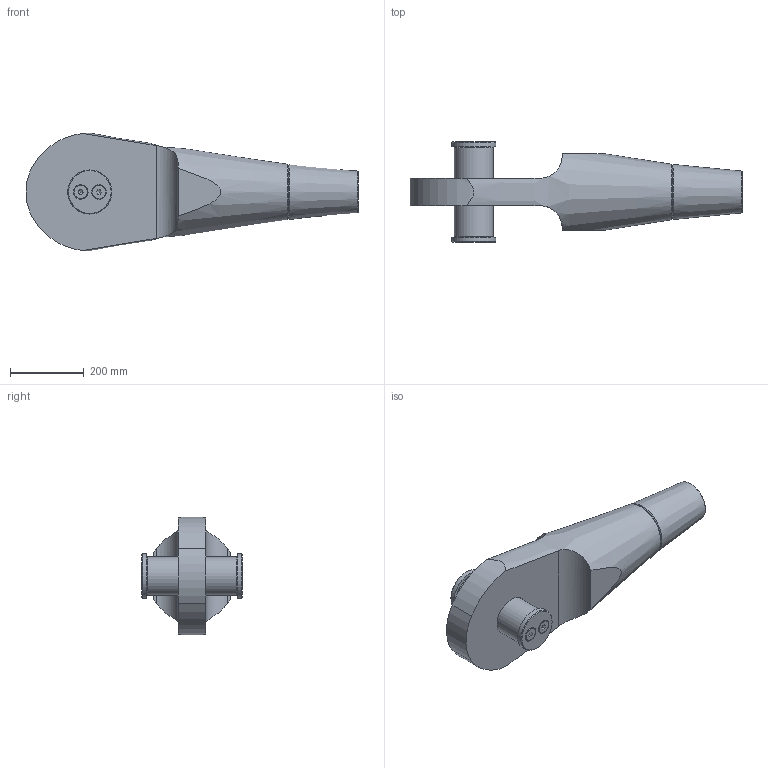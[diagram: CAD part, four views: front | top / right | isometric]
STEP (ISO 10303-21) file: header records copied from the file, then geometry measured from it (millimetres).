
FILE_DESCRIPTION(/* description */ (''),/* implementation_level */ '2;1');
FILE_NAME(/* name */ 'G:\Engineering\700 CAD\Internet-PX-1-step-igs-dxf\520-OES-Arbeitsdateien\520-100-OES.stp',/* time_stamp */ '2020-06-26T10:41:03+02:00',/* author */ ('schwarz'),/* organization */ (''),/* preprocessor_version */ 'ST-DEVELOPER v16.1',/* originating_system */ 'Autodesk Inventor 2016',/* authorisation */ '');
FILE_SCHEMA (('AUTOMOTIVE_DESIGN { 1 0 10303 214 3 1 1 }'));
Length unit declared in the file: centimetre
Products named in the file (1): 520-100-OES-KMU-Kunde
Bounding box: 902.56 x 275 x 320.74 mm (x, y, z)
Volume: 21009605.1 mm3; surface area: 771659.6 mm2
Topology: 2 solids, 10 shells, 104 faces, 243 edges, 159 vertices
Faces by surface type: plane 49, cone 28, cylinder 26, torus 1
Full cylindrical faces by diameter (mm): 17.294 x4, 20 x4, 22 x4, 36.05 x4, 103 x1, 106 x1, 109 x1, 120 x2
Entity records: 2687 total; most frequent: CARTESIAN_POINT 579, DIRECTION 406, ORIENTED_EDGE 328, AXIS2_PLACEMENT_3D 175, EDGE_LOOP 164, EDGE_CURVE 164, VERTEX_POINT 130, STYLED_ITEM 106
